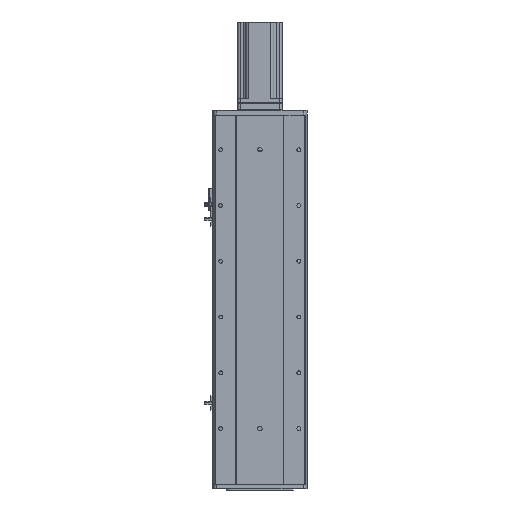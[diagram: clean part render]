
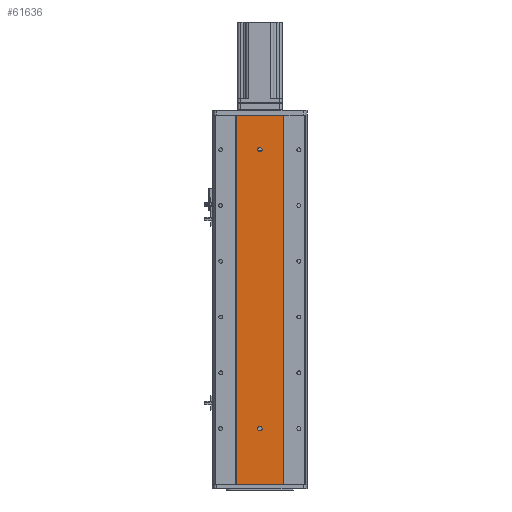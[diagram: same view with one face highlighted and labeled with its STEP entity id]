
A CAD part, front view. The second image highlights one B-rep face of the part: STEP entity #61636.
In plain terms, the highlighted planar face has unit normal (0, -1, 0).
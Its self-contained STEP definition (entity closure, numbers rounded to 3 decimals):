
#35 = CARTESIAN_POINT ( 'NONE',  ( 5126.969, 335.574, 100. ) ) ;
#37 = DIRECTION ( 'NONE',  ( -1., 0., 0. ) ) ;
#45 = DIRECTION ( 'NONE',  ( 0., 1., 0. ) ) ;
#135 = DIRECTION ( 'NONE',  ( 0., 1., 0. ) ) ;
#136 = DIRECTION ( 'NONE',  ( -1., 0., 0. ) ) ;
#212 = CARTESIAN_POINT ( 'NONE',  ( 5126.969, 335.574, 600. ) ) ;
#3663 = CARTESIAN_POINT ( 'NONE',  ( 5085.384, 335.574, 662. ) ) ;
#3679 = DIRECTION ( 'NONE',  ( 1., 0., 0. ) ) ;
#4060 = CARTESIAN_POINT ( 'NONE',  ( 5085.384, 335.574, 0. ) ) ;
#4111 = DIRECTION ( 'NONE',  ( 1., 0., 0. ) ) ;
#4644 = LINE ( 'NONE', #3663, #4665 ) ;
#4665 = VECTOR ( 'NONE', #3679, 1000. ) ;
#4874 = LINE ( 'NONE', #4060, #4884 ) ;
#4884 = VECTOR ( 'NONE', #4111, 1000. ) ;
#4947 = LINE ( 'NONE', #29949, #5030 ) ;
#4997 = CIRCLE ( 'NONE', #55890, 4. ) ;
#5022 = LINE ( 'NONE', #30005, #5032 ) ;
#5029 = CIRCLE ( 'NONE', #55707, 4. ) ;
#5030 = VECTOR ( 'NONE', #29942, 1000. ) ;
#5032 = VECTOR ( 'NONE', #29986, 1000. ) ;
#9473 = VERTEX_POINT ( 'NONE', #26492 ) ;
#9479 = VERTEX_POINT ( 'NONE', #26452 ) ;
#9498 = VERTEX_POINT ( 'NONE', #26511 ) ;
#9522 = VERTEX_POINT ( 'NONE', #26564 ) ;
#26452 = CARTESIAN_POINT ( 'NONE',  ( 5126.969, 335.574, 596. ) ) ;
#26492 = CARTESIAN_POINT ( 'NONE',  ( 5126.969, 335.574, 104. ) ) ;
#26511 = CARTESIAN_POINT ( 'NONE',  ( 5126.969, 335.574, 96. ) ) ;
#26564 = CARTESIAN_POINT ( 'NONE',  ( 5126.969, 335.574, 604. ) ) ;
#29923 = CARTESIAN_POINT ( 'NONE',  ( 5126.969, 335.574, 600. ) ) ;
#29924 = DIRECTION ( 'NONE',  ( -1., 0., 0. ) ) ;
#29932 = DIRECTION ( 'NONE',  ( 0., 1., 0. ) ) ;
#29942 = DIRECTION ( 'NONE',  ( 0., 0., -1. ) ) ;
#29949 = CARTESIAN_POINT ( 'NONE',  ( 5168.555, 335.574, 662. ) ) ;
#29986 = DIRECTION ( 'NONE',  ( 0., 0., -1. ) ) ;
#30005 = CARTESIAN_POINT ( 'NONE',  ( 5085.384, 335.574, 662. ) ) ;
#30020 = CARTESIAN_POINT ( 'NONE',  ( 5126.969, 335.574, 100. ) ) ;
#30021 = DIRECTION ( 'NONE',  ( 0., 1., 0. ) ) ;
#30023 = DIRECTION ( 'NONE',  ( -1., 0., 0. ) ) ;
#35599 = EDGE_CURVE ( 'NONE', #9498, #9473, #58032, .T. ) ;
#35625 = EDGE_CURVE ( 'NONE', #9479, #9522, #58103, .T. ) ;
#36211 = EDGE_CURVE ( 'NONE', #58911, #58916, #4644, .T. ) ;
#36377 = EDGE_CURVE ( 'NONE', #59027, #59051, #4874, .T. ) ;
#36429 = EDGE_CURVE ( 'NONE', #58916, #59051, #4947, .T. ) ;
#36432 = EDGE_CURVE ( 'NONE', #9522, #9479, #5029, .T. ) ;
#36438 = EDGE_CURVE ( 'NONE', #58911, #59027, #5022, .T. ) ;
#36458 = EDGE_CURVE ( 'NONE', #9473, #9498, #4997, .T. ) ;
#39464 = FACE_BOUND ( 'NONE', #42893, .T. ) ;
#39508 = FACE_OUTER_BOUND ( 'NONE', #42857, .T. ) ;
#39511 = FACE_BOUND ( 'NONE', #58876, .T. ) ;
#40157 = ORIENTED_EDGE ( 'NONE', *, *, #36429, .F. ) ;
#40201 = ORIENTED_EDGE ( 'NONE', *, *, #36211, .F. ) ;
#40206 = ORIENTED_EDGE ( 'NONE', *, *, #36377, .T. ) ;
#40215 = ORIENTED_EDGE ( 'NONE', *, *, #35599, .T. ) ;
#40220 = ORIENTED_EDGE ( 'NONE', *, *, #36458, .T. ) ;
#40221 = ORIENTED_EDGE ( 'NONE', *, *, #35625, .T. ) ;
#40254 = ORIENTED_EDGE ( 'NONE', *, *, #36438, .T. ) ;
#40272 = ORIENTED_EDGE ( 'NONE', *, *, #36432, .T. ) ;
#42857 = EDGE_LOOP ( 'NONE', ( #40206, #40157, #40201, #40254 ) ) ;
#42893 = EDGE_LOOP ( 'NONE', ( #40215, #40220 ) ) ;
#47136 = CARTESIAN_POINT ( 'NONE',  ( 5085.384, 335.574, 662. ) ) ;
#47173 = PLANE ( 'NONE',  #58426 ) ;
#47177 = DIRECTION ( 'NONE',  ( 0., 1., 0. ) ) ;
#47181 = DIRECTION ( 'NONE',  ( -1., 0., 0. ) ) ;
#53253 = CARTESIAN_POINT ( 'NONE',  ( 5168.555, 335.574, 662. ) ) ;
#53273 = CARTESIAN_POINT ( 'NONE',  ( 5085.384, 335.574, 662. ) ) ;
#53327 = CARTESIAN_POINT ( 'NONE',  ( 5085.384, 335.574, 0. ) ) ;
#53435 = CARTESIAN_POINT ( 'NONE',  ( 5168.555, 335.574, 0. ) ) ;
#54705 = AXIS2_PLACEMENT_3D ( 'NONE', #212, #135, #136 ) ;
#54713 = AXIS2_PLACEMENT_3D ( 'NONE', #35, #45, #37 ) ;
#55707 = AXIS2_PLACEMENT_3D ( 'NONE', #29923, #29932, #29924 ) ;
#55890 = AXIS2_PLACEMENT_3D ( 'NONE', #30020, #30021, #30023 ) ;
#58032 = CIRCLE ( 'NONE', #54713, 4. ) ;
#58103 = CIRCLE ( 'NONE', #54705, 4. ) ;
#58426 = AXIS2_PLACEMENT_3D ( 'NONE', #47136, #47177, #47181 ) ;
#58876 = EDGE_LOOP ( 'NONE', ( #40221, #40272 ) ) ;
#58911 = VERTEX_POINT ( 'NONE', #53273 ) ;
#58916 = VERTEX_POINT ( 'NONE', #53253 ) ;
#59027 = VERTEX_POINT ( 'NONE', #53327 ) ;
#59051 = VERTEX_POINT ( 'NONE', #53435 ) ;
#61636 = ADVANCED_FACE ( 'NONE', ( #39511, #39464, #39508 ), #47173, .F. ) ;
